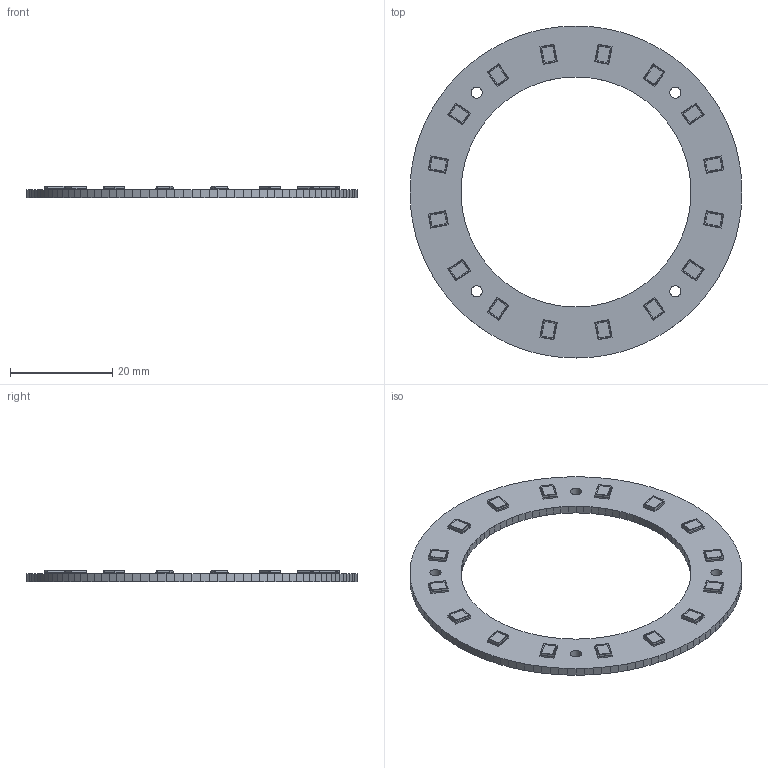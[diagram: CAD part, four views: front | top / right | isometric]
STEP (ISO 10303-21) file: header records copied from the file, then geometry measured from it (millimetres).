
FILE_DESCRIPTION(('Open CASCADE Model'),'2;1');
FILE_NAME('Open CASCADE Shape Model','2018-07-18T08:23:48',('Author'),( 'Open CASCADE'),'Open CASCADE STEP processor 6.5','Open CASCADE 6.5' ,'Unknown');
FILE_SCHEMA(('AUTOMOTIVE_DESIGN { 1 0 10303 214 1 1 1 1 }'));
Length unit declared in the file: millimetre
Products named in the file (19): PCB; Board; LD16; LED_2835; LD15; LD14; LD13; LD12; LD11; LD10; LD9; LD8; LD7; LD6; LD5; LD4; LD3; LD2; LD1
Assembly tree (33 placements, depth 3):
  PCB
    Board
    LD16
      LED_2835
    LD15
      LED_2835
    LD14
      LED_2835
    LD13
      LED_2835
    LD12
      LED_2835
    LD11
      LED_2835
    LD10
      LED_2835
    LD9
      LED_2835
    LD8
      LED_2835
    LD7
      LED_2835
    LD6
      LED_2835
    LD5
      LED_2835
    LD4
      LED_2835
    LD3
      LED_2835
    LD2
      LED_2835
    LD1
      LED_2835
Bounding box: 65.02 x 65.02 x 2.31 mm (x, y, z)
Volume: 2826.5 mm3; surface area: 4473 mm2
Topology: 17 solids, 17 shells, 766 faces, 2100 edges, 1400 vertices
Faces by surface type: plane 634, cylinder 132
Full cylindrical faces by diameter (mm): 2.2 x4
Entity records: 19219 total; most frequent: CARTESIAN_POINT 3581, DIRECTION 2790, LINE 2194, VECTOR 2194, ORIENTED_EDGE 1500, PCURVE 1500, DEFINITIONAL_REPRESENTATION 1500, EDGE_CURVE 750
